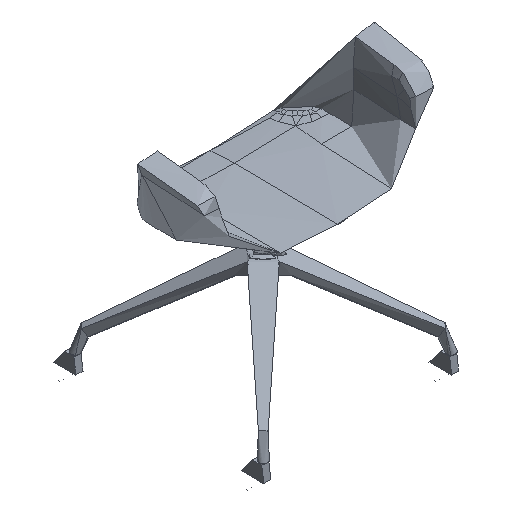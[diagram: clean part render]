
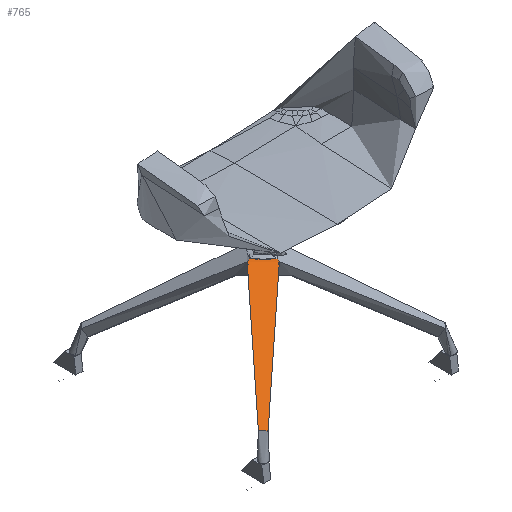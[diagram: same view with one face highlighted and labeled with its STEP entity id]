
A CAD part, isometric view. The second image highlights one B-rep face of the part: STEP entity #765.
In plain terms, the highlighted free-form (B-spline) face has degree [1, 2] with [2, 3] control points.
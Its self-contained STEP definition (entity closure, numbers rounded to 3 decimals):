
#239=(
BOUNDED_CURVE()
B_SPLINE_CURVE(2,(#33765,#33766,#33767),.UNSPECIFIED.,.F.,.F.)
B_SPLINE_CURVE_WITH_KNOTS((3,3),(0.,565.759),.UNSPECIFIED.)
CURVE()
GEOMETRIC_REPRESENTATION_ITEM()
RATIONAL_B_SPLINE_CURVE((1.,0.707,1.))
REPRESENTATION_ITEM('')
);
#348=(
BOUNDED_SURFACE()
B_SPLINE_SURFACE(1,2,((#30681,#30682,#30683),(#30684,#30685,#30686)),
 .UNSPECIFIED.,.F.,.F.,.F.)
B_SPLINE_SURFACE_WITH_KNOTS((2,2),(3,3),(-15.092,357.439),
(0.,565.759),.UNSPECIFIED.)
GEOMETRIC_REPRESENTATION_ITEM()
RATIONAL_B_SPLINE_SURFACE(((1.,0.707,1.),(1.,0.707,
1.)))
REPRESENTATION_ITEM('')
SURFACE()
);
#765=ADVANCED_FACE('',(#1071),#348,.T.);
#1071=FACE_OUTER_BOUND('',#1377,.T.);
#1377=EDGE_LOOP('',(#2654,#2655,#2656,#2657,#2658,#2659));
#2654=ORIENTED_EDGE('',*,*,#3430,.F.);
#2655=ORIENTED_EDGE('',*,*,#3429,.T.);
#2656=ORIENTED_EDGE('',*,*,#3357,.F.);
#2657=ORIENTED_EDGE('',*,*,#3435,.F.);
#2658=ORIENTED_EDGE('',*,*,#3431,.F.);
#2659=ORIENTED_EDGE('',*,*,#3433,.T.);
#3357=EDGE_CURVE('',#4328,#4326,#3897,.T.);
#3429=EDGE_CURVE('',#4368,#4326,#239,.T.);
#3430=EDGE_CURVE('',#4368,#4369,#3932,.T.);
#3431=EDGE_CURVE('',#4359,#4360,#3933,.T.);
#3433=EDGE_CURVE('',#4359,#4369,#3934,.T.);
#3435=EDGE_CURVE('',#4360,#4328,#3936,.T.);
#3897=B_SPLINE_CURVE_WITH_KNOTS('',1,(#32872,#32873),.UNSPECIFIED.,.F.,
 .F.,(2,2),(350.565,357.439),.UNSPECIFIED.);
#3932=B_SPLINE_CURVE_WITH_KNOTS('',1,(#33768,#33769),.UNSPECIFIED.,.F.,
 .F.,(2,2),(-357.439,-350.565),.UNSPECIFIED.);
#3933=B_SPLINE_CURVE_WITH_KNOTS('',3,(#33770,#33771,#33772,#33773,#33774,
#33775,#33776,#33777,#33778,#33779,#33780,#33781,#33782,#33783,#33784,#33785,
#33786,#33787,#33788,#33789,#33790,#33791,#33792,#33793,#33794,#33795,#33796),
 .UNSPECIFIED.,.F.,.F.,(4,3,2,3,2,3,2,3,2,3,4),(344.615,356.617,
360.657,364.7,368.404,372.121,375.837,
379.541,383.584,387.624,399.626),
 .UNSPECIFIED.);
#3934=B_SPLINE_CURVE_WITH_KNOTS('',3,(#33800,#33801,#33802,#33803,#33804,
#33805,#33806,#33807,#33808,#33809,#33810,#33811,#33812,#33813,#33814,#33815,
#33816,#33817,#33818,#33819,#33820,#33821,#33822,#33823),.UNSPECIFIED.,
 .F.,.F.,(4,2,2,2,2,2,2,2,2,2,2,4),(-337.679,-253.259,
-168.84,-126.63,-84.42,-63.315,
-42.21,-36.934,-31.657,-21.105,
-10.552,0.),.UNSPECIFIED.);
#3936=B_SPLINE_CURVE_WITH_KNOTS('',3,(#33826,#33827,#33828,#33829,#33830,
#33831,#33832,#33833,#33834,#33835,#33836,#33837,#33838,#33839,#33840,#33841,
#33842,#33843,#33844,#33845,#33846,#33847,#33848,#33849),.UNSPECIFIED.,
 .F.,.F.,(4,2,2,2,2,2,2,2,2,2,2,4),(-337.679,-253.259,
-168.84,-126.63,-84.42,-63.315,
-42.21,-36.934,-31.657,-21.105,
-10.552,0.),.UNSPECIFIED.);
#4326=VERTEX_POINT('',#32757);
#4328=VERTEX_POINT('',#32759);
#4359=VERTEX_POINT('',#32790);
#4360=VERTEX_POINT('',#32791);
#4368=VERTEX_POINT('',#32799);
#4369=VERTEX_POINT('',#32800);
#30681=CARTESIAN_POINT('',(0.,-360.174,102.554));
#30682=CARTESIAN_POINT('',(-360.174,-360.174,102.554));
#30683=CARTESIAN_POINT('',(-360.174,0.,102.554));
#30684=CARTESIAN_POINT('',(0.,-35.,286.348));
#30685=CARTESIAN_POINT('',(-35.,-35.,286.348));
#30686=CARTESIAN_POINT('',(-35.,0.,286.348));
#32757=CARTESIAN_POINT('',(-35.,0.,286.348));
#32759=CARTESIAN_POINT('',(-41.,0.,282.957));
#32790=CARTESIAN_POINT('',(-225.099,-237.523,121.168));
#32791=CARTESIAN_POINT('',(-237.523,-225.099,121.168));
#32799=CARTESIAN_POINT('',(0.,-35.,286.348));
#32800=CARTESIAN_POINT('',(0.,-41.,282.957));
#32872=CARTESIAN_POINT('',(-41.,0.,282.957));
#32873=CARTESIAN_POINT('',(-35.,0.,286.348));
#33765=CARTESIAN_POINT('',(0.,-35.,286.348));
#33766=CARTESIAN_POINT('',(-35.,-35.,286.348));
#33767=CARTESIAN_POINT('',(-35.,0.,286.348));
#33768=CARTESIAN_POINT('',(0.,-35.,286.348));
#33769=CARTESIAN_POINT('',(0.,-41.,282.957));
#33770=CARTESIAN_POINT('',(-225.099,-237.523,121.168));
#33771=CARTESIAN_POINT('',(-227.55,-240.068,119.171));
#33772=CARTESIAN_POINT('',(-230.017,-242.635,117.158));
#33773=CARTESIAN_POINT('',(-232.505,-245.23,115.127));
#33774=CARTESIAN_POINT('',(-233.312,-246.072,114.468));
#33775=CARTESIAN_POINT('',(-234.282,-246.757,113.809));
#33776=CARTESIAN_POINT('',(-236.457,-247.716,112.569));
#33777=CARTESIAN_POINT('',(-237.658,-247.988,111.989));
#33778=CARTESIAN_POINT('',(-238.907,-248.002,111.494));
#33779=CARTESIAN_POINT('',(-240.05,-248.014,111.041));
#33780=CARTESIAN_POINT('',(-241.216,-247.808,110.666));
#33781=CARTESIAN_POINT('',(-243.456,-246.916,110.14));
#33782=CARTESIAN_POINT('',(-244.491,-246.241,110.));
#33783=CARTESIAN_POINT('',(-245.366,-245.366,110.));
#33784=CARTESIAN_POINT('',(-246.241,-244.491,110.));
#33785=CARTESIAN_POINT('',(-246.916,-243.456,110.14));
#33786=CARTESIAN_POINT('',(-247.808,-241.216,110.666));
#33787=CARTESIAN_POINT('',(-248.014,-240.05,111.041));
#33788=CARTESIAN_POINT('',(-248.002,-238.907,111.494));
#33789=CARTESIAN_POINT('',(-247.988,-237.658,111.989));
#33790=CARTESIAN_POINT('',(-247.716,-236.457,112.569));
#33791=CARTESIAN_POINT('',(-246.757,-234.282,113.809));
#33792=CARTESIAN_POINT('',(-246.072,-233.312,114.468));
#33793=CARTESIAN_POINT('',(-245.23,-232.505,115.127));
#33794=CARTESIAN_POINT('',(-242.635,-230.017,117.158));
#33795=CARTESIAN_POINT('',(-240.068,-227.55,119.171));
#33796=CARTESIAN_POINT('',(-237.523,-225.099,121.168));
#33800=CARTESIAN_POINT('',(-225.099,-237.523,121.168));
#33801=CARTESIAN_POINT('',(-207.781,-219.538,135.28));
#33802=CARTESIAN_POINT('',(-190.301,-201.711,149.39));
#33803=CARTESIAN_POINT('',(-155.064,-166.323,177.604));
#33804=CARTESIAN_POINT('',(-137.344,-148.726,191.709));
#33805=CARTESIAN_POINT('',(-110.59,-122.501,212.85));
#33806=CARTESIAN_POINT('',(-101.649,-113.779,219.896));
#33807=CARTESIAN_POINT('',(-83.695,-96.403,233.973));
#33808=CARTESIAN_POINT('',(-74.691,-87.738,241.01));
#33809=CARTESIAN_POINT('',(-61.032,-74.88,251.53));
#33810=CARTESIAN_POINT('',(-56.468,-70.601,255.037));
#33811=CARTESIAN_POINT('',(-47.102,-62.274,262.001));
#33812=CARTESIAN_POINT('',(-42.3,-58.22,265.471));
#33813=CARTESIAN_POINT('',(-35.854,-53.621,269.674));
#33814=CARTESIAN_POINT('',(-34.541,-52.728,270.505));
#33815=CARTESIAN_POINT('',(-31.86,-51.,272.143));
#33816=CARTESIAN_POINT('',(-30.494,-50.168,272.951));
#33817=CARTESIAN_POINT('',(-26.297,-47.781,275.317));
#33818=CARTESIAN_POINT('',(-23.373,-46.333,276.827));
#33819=CARTESIAN_POINT('',(-17.213,-43.858,279.531));
#33820=CARTESIAN_POINT('',(-13.969,-42.83,280.727));
#33821=CARTESIAN_POINT('',(-7.159,-41.392,282.452));
#33822=CARTESIAN_POINT('',(-3.588,-40.997,282.96));
#33823=CARTESIAN_POINT('',(0.,-41.,282.957));
#33826=CARTESIAN_POINT('',(-237.523,-225.099,121.168));
#33827=CARTESIAN_POINT('',(-219.538,-207.781,135.28));
#33828=CARTESIAN_POINT('',(-201.711,-190.301,149.39));
#33829=CARTESIAN_POINT('',(-166.323,-155.064,177.604));
#33830=CARTESIAN_POINT('',(-148.726,-137.344,191.709));
#33831=CARTESIAN_POINT('',(-122.501,-110.59,212.85));
#33832=CARTESIAN_POINT('',(-113.779,-101.649,219.896));
#33833=CARTESIAN_POINT('',(-96.403,-83.695,233.973));
#33834=CARTESIAN_POINT('',(-87.738,-74.691,241.01));
#33835=CARTESIAN_POINT('',(-74.88,-61.032,251.53));
#33836=CARTESIAN_POINT('',(-70.601,-56.468,255.037));
#33837=CARTESIAN_POINT('',(-62.274,-47.102,262.001));
#33838=CARTESIAN_POINT('',(-58.22,-42.3,265.471));
#33839=CARTESIAN_POINT('',(-53.621,-35.854,269.674));
#33840=CARTESIAN_POINT('',(-52.728,-34.541,270.505));
#33841=CARTESIAN_POINT('',(-51.,-31.86,272.143));
#33842=CARTESIAN_POINT('',(-50.168,-30.494,272.951));
#33843=CARTESIAN_POINT('',(-47.781,-26.297,275.317));
#33844=CARTESIAN_POINT('',(-46.333,-23.373,276.827));
#33845=CARTESIAN_POINT('',(-43.858,-17.213,279.531));
#33846=CARTESIAN_POINT('',(-42.83,-13.969,280.727));
#33847=CARTESIAN_POINT('',(-41.392,-7.159,282.452));
#33848=CARTESIAN_POINT('',(-40.997,-3.588,282.96));
#33849=CARTESIAN_POINT('',(-41.,0.,282.957));
